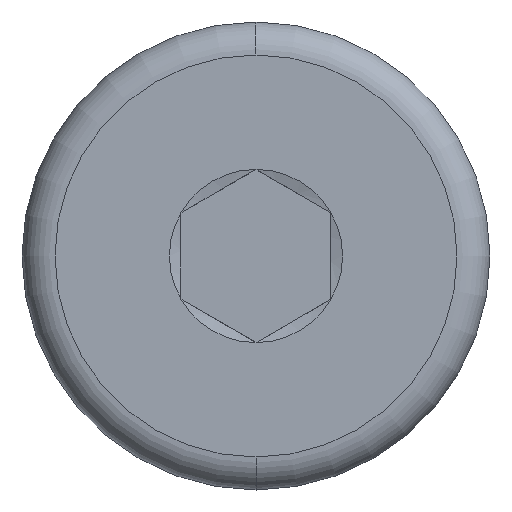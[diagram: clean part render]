
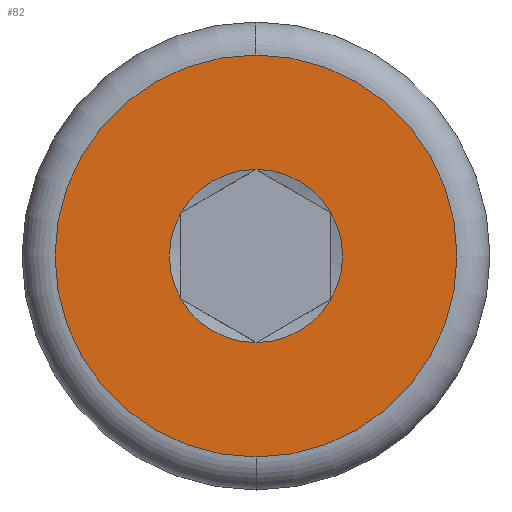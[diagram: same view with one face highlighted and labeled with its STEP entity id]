
A CAD part, left-side view. The second image highlights one B-rep face of the part: STEP entity #82.
In plain terms, the highlighted planar face has unit normal (-1, 0, 0).
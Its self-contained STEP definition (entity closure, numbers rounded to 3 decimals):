
#7 = ORIENTED_EDGE ( 'NONE', *, *, #371, .T. ) ;
#8 = AXIS2_PLACEMENT_3D ( 'NONE', #566, #313, #157 ) ;
#10 = EDGE_CURVE ( 'NONE', #383, #553, #36, .T. ) ;
#21 = VERTEX_POINT ( 'NONE', #659 ) ;
#27 = ORIENTED_EDGE ( 'NONE', *, *, #10, .F. ) ;
#36 = CIRCLE ( 'NONE', #451, 6.7 ) ;
#46 = DIRECTION ( 'NONE',  ( -1., 0., 0. ) ) ;
#48 = AXIS2_PLACEMENT_3D ( 'NONE', #661, #294, #350 ) ;
#55 = DIRECTION ( 'NONE',  ( 1., 0., 0. ) ) ;
#60 = EDGE_CURVE ( 'NONE', #553, #383, #542, .T. ) ;
#64 = AXIS2_PLACEMENT_3D ( 'NONE', #175, #123, #332 ) ;
#82 = ADVANCED_FACE ( 'NONE', ( #358, #314 ), #513, .T. ) ;
#104 = VERTEX_POINT ( 'NONE', #106 ) ;
#106 = CARTESIAN_POINT ( 'NONE',  ( 0., -2.5, 1.443 ) ) ;
#116 = AXIS2_PLACEMENT_3D ( 'NONE', #351, #546, #290 ) ;
#120 = ORIENTED_EDGE ( 'NONE', *, *, #572, .T. ) ;
#123 = DIRECTION ( 'NONE',  ( 1., 0., 0. ) ) ;
#132 = EDGE_CURVE ( 'NONE', #104, #650, #237, .T. ) ;
#142 = CARTESIAN_POINT ( 'NONE',  ( 0., 0., 6.7 ) ) ;
#154 = DIRECTION ( 'NONE',  ( 0., 0., -1. ) ) ;
#157 = DIRECTION ( 'NONE',  ( 0., 0., -1. ) ) ;
#159 = DIRECTION ( 'NONE',  ( 0., 0., 1. ) ) ;
#175 = CARTESIAN_POINT ( 'NONE',  ( 0., 0., 0. ) ) ;
#180 = CARTESIAN_POINT ( 'NONE',  ( 0., 0., 0. ) ) ;
#183 = CARTESIAN_POINT ( 'NONE',  ( 0., 2.5, 1.443 ) ) ;
#197 = VERTEX_POINT ( 'NONE', #416 ) ;
#198 = CARTESIAN_POINT ( 'NONE',  ( 0., 0., 0. ) ) ;
#209 = CARTESIAN_POINT ( 'NONE',  ( 0., 0., 0. ) ) ;
#236 = VERTEX_POINT ( 'NONE', #431 ) ;
#237 = CIRCLE ( 'NONE', #607, 2.887 ) ;
#238 = DIRECTION ( 'NONE',  ( 1., 0., 0. ) ) ;
#240 = CIRCLE ( 'NONE', #272, 2.887 ) ;
#249 = AXIS2_PLACEMENT_3D ( 'NONE', #567, #46, #159 ) ;
#252 = DIRECTION ( 'NONE',  ( 0., 0., -1. ) ) ;
#264 = EDGE_CURVE ( 'NONE', #650, #236, #507, .T. ) ;
#267 = ORIENTED_EDGE ( 'NONE', *, *, #556, .T. ) ;
#272 = AXIS2_PLACEMENT_3D ( 'NONE', #198, #238, #346 ) ;
#284 = VERTEX_POINT ( 'NONE', #183 ) ;
#290 = DIRECTION ( 'NONE',  ( 0., 0., -1. ) ) ;
#294 = DIRECTION ( 'NONE',  ( 1., 0., 0. ) ) ;
#308 = CARTESIAN_POINT ( 'NONE',  ( 0., -2.5, -1.443 ) ) ;
#313 = DIRECTION ( 'NONE',  ( 1., 0., 0. ) ) ;
#314 = FACE_OUTER_BOUND ( 'NONE', #492, .T. ) ;
#332 = DIRECTION ( 'NONE',  ( 0., 0., -1. ) ) ;
#342 = CARTESIAN_POINT ( 'NONE',  ( 0., 0., -6.7 ) ) ;
#346 = DIRECTION ( 'NONE',  ( 0., 0., -1. ) ) ;
#350 = DIRECTION ( 'NONE',  ( 0., 0., -1. ) ) ;
#351 = CARTESIAN_POINT ( 'NONE',  ( 0., 0., 0. ) ) ;
#356 = DIRECTION ( 'NONE',  ( 1., 0., 0. ) ) ;
#358 = FACE_BOUND ( 'NONE', #549, .T. ) ;
#371 = EDGE_CURVE ( 'NONE', #197, #104, #586, .T. ) ;
#383 = VERTEX_POINT ( 'NONE', #342 ) ;
#404 = CARTESIAN_POINT ( 'NONE',  ( 0., 0., 0. ) ) ;
#409 = CIRCLE ( 'NONE', #8, 2.887 ) ;
#410 = CIRCLE ( 'NONE', #116, 2.887 ) ;
#416 = CARTESIAN_POINT ( 'NONE',  ( 0., 0., 2.887 ) ) ;
#431 = CARTESIAN_POINT ( 'NONE',  ( 0., 0., -2.887 ) ) ;
#436 = ORIENTED_EDGE ( 'NONE', *, *, #264, .T. ) ;
#441 = ORIENTED_EDGE ( 'NONE', *, *, #481, .T. ) ;
#451 = AXIS2_PLACEMENT_3D ( 'NONE', #404, #356, #252 ) ;
#473 = AXIS2_PLACEMENT_3D ( 'NONE', #180, #488, #491 ) ;
#481 = EDGE_CURVE ( 'NONE', #21, #284, #240, .T. ) ;
#488 = DIRECTION ( 'NONE',  ( 1., 0., 0. ) ) ;
#491 = DIRECTION ( 'NONE',  ( 0., 0., -1. ) ) ;
#492 = EDGE_LOOP ( 'NONE', ( #27, #646 ) ) ;
#505 = ORIENTED_EDGE ( 'NONE', *, *, #132, .T. ) ;
#507 = CIRCLE ( 'NONE', #473, 2.887 ) ;
#513 = PLANE ( 'NONE',  #249 ) ;
#542 = CIRCLE ( 'NONE', #48, 6.7 ) ;
#546 = DIRECTION ( 'NONE',  ( 1., 0., 0. ) ) ;
#549 = EDGE_LOOP ( 'NONE', ( #120, #7, #505, #436, #267, #441 ) ) ;
#553 = VERTEX_POINT ( 'NONE', #142 ) ;
#556 = EDGE_CURVE ( 'NONE', #236, #21, #410, .T. ) ;
#566 = CARTESIAN_POINT ( 'NONE',  ( 0., 0., 0. ) ) ;
#567 = CARTESIAN_POINT ( 'NONE',  ( 0., 0., 0. ) ) ;
#572 = EDGE_CURVE ( 'NONE', #284, #197, #409, .T. ) ;
#586 = CIRCLE ( 'NONE', #64, 2.887 ) ;
#607 = AXIS2_PLACEMENT_3D ( 'NONE', #209, #55, #154 ) ;
#646 = ORIENTED_EDGE ( 'NONE', *, *, #60, .F. ) ;
#650 = VERTEX_POINT ( 'NONE', #308 ) ;
#659 = CARTESIAN_POINT ( 'NONE',  ( 0., 2.5, -1.443 ) ) ;
#661 = CARTESIAN_POINT ( 'NONE',  ( 0., 0., 0. ) ) ;
